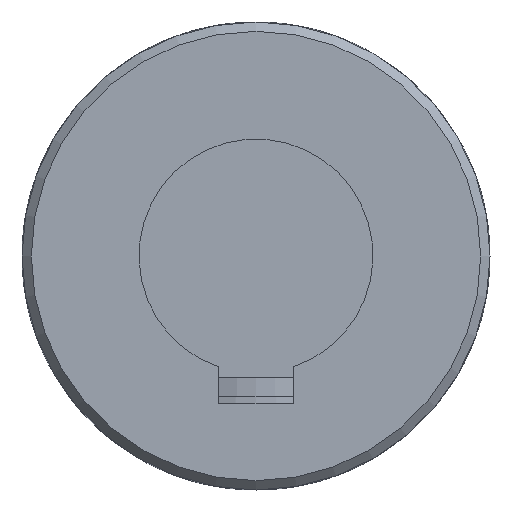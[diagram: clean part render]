
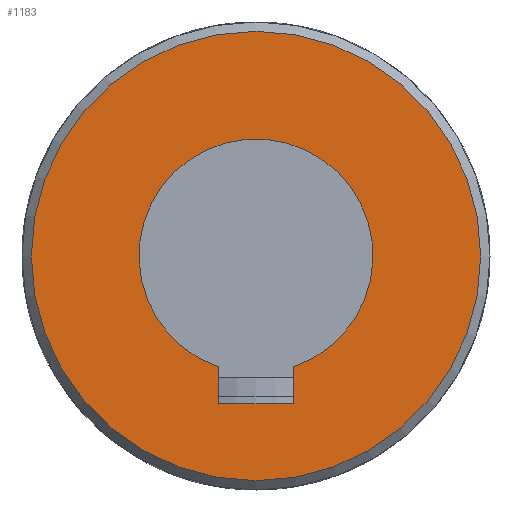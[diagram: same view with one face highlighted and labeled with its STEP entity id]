
A CAD part, front view. The second image highlights one B-rep face of the part: STEP entity #1183.
In plain terms, the highlighted planar face has unit normal (0, -1, 0).
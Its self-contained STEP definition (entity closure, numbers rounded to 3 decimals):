
#133=LINE('',#2131,#178);
#137=LINE('',#2158,#182);
#139=LINE('',#2166,#184);
#178=VECTOR('',#1532,3.957);
#182=VECTOR('',#1544,8.);
#184=VECTOR('',#1548,3.957);
#223=PLANE('',#1304);
#264=FACE_BOUND('',#426,.T.);
#322=FACE_OUTER_BOUND('',#425,.T.);
#425=EDGE_LOOP('',(#1009));
#426=EDGE_LOOP('',(#1010,#1011,#1012,#1013));
#489=CIRCLE('',#1291,12.5);
#495=CIRCLE('',#1302,24.);
#579=VERTEX_POINT('',#2128);
#580=VERTEX_POINT('',#2130);
#583=VERTEX_POINT('',#2140);
#585=VERTEX_POINT('',#2156);
#594=VERTEX_POINT('',#2243);
#718=EDGE_CURVE('',#580,#579,#133,.T.);
#722=EDGE_CURVE('',#583,#580,#489,.T.);
#726=EDGE_CURVE('',#579,#585,#137,.T.);
#729=EDGE_CURVE('',#585,#583,#139,.T.);
#739=EDGE_CURVE('',#594,#594,#495,.T.);
#1009=ORIENTED_EDGE('',*,*,#739,.F.);
#1010=ORIENTED_EDGE('',*,*,#718,.T.);
#1011=ORIENTED_EDGE('',*,*,#726,.T.);
#1012=ORIENTED_EDGE('',*,*,#729,.T.);
#1013=ORIENTED_EDGE('',*,*,#722,.T.);
#1183=ADVANCED_FACE('',(#322,#264),#223,.F.);
#1291=AXIS2_PLACEMENT_3D('',#2141,#1538,#1539);
#1302=AXIS2_PLACEMENT_3D('',#2244,#1565,#1566);
#1304=AXIS2_PLACEMENT_3D('',#2452,#1573,#1574);
#1532=DIRECTION('',(0.,0.,-1.));
#1538=DIRECTION('center_axis',(0.,1.,0.));
#1539=DIRECTION('ref_axis',(-0.32,0.,0.947));
#1544=DIRECTION('',(-1.,0.,0.));
#1548=DIRECTION('',(0.,0.,1.));
#1565=DIRECTION('center_axis',(0.,1.,0.));
#1566=DIRECTION('ref_axis',(1.,0.,0.));
#1573=DIRECTION('center_axis',(0.,1.,0.));
#1574=DIRECTION('ref_axis',(0.,0.,1.));
#2128=CARTESIAN_POINT('',(4.,-66.5,-15.8));
#2130=CARTESIAN_POINT('',(4.,-66.5,-11.843));
#2131=CARTESIAN_POINT('',(4.,-66.5,-5.921));
#2140=CARTESIAN_POINT('',(-4.,-66.5,-11.843));
#2141=CARTESIAN_POINT('Origin',(0.,-66.5,0.));
#2156=CARTESIAN_POINT('',(-4.,-66.5,-15.8));
#2158=CARTESIAN_POINT('',(2.,-66.5,-15.8));
#2166=CARTESIAN_POINT('',(-4.,-66.5,-7.9));
#2243=CARTESIAN_POINT('',(-24.,-66.5,0.));
#2244=CARTESIAN_POINT('Origin',(0.,-66.5,0.));
#2452=CARTESIAN_POINT('Origin',(0.,-66.5,0.));
